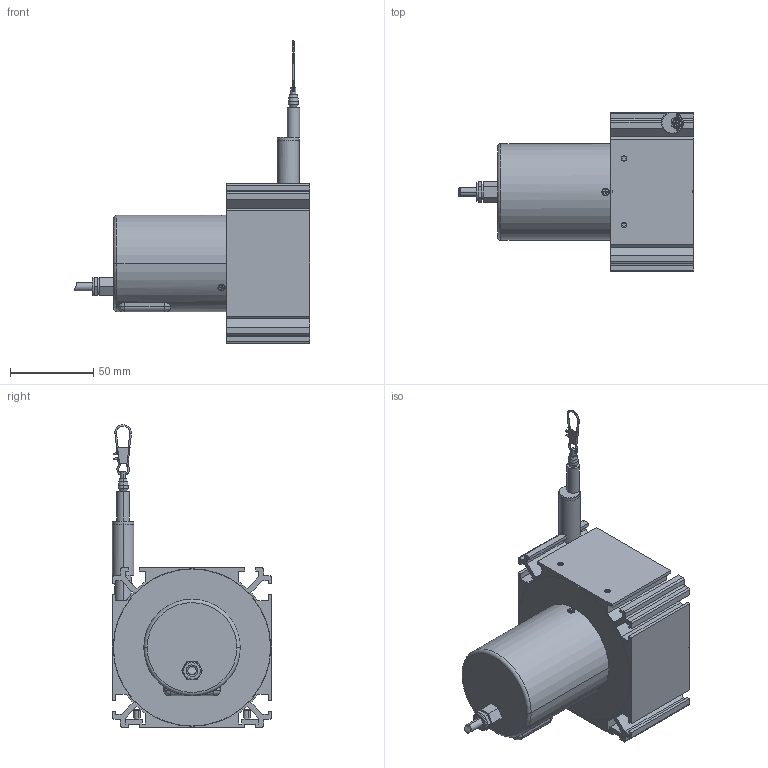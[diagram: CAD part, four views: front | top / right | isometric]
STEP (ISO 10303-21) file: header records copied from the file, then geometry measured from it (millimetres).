
FILE_DESCRIPTION((''),'2;1');
FILE_NAME('','2007-03-21T',(''),(''),'PRO/ENGINEER BY PARAMETRIC TECHNOLOGY CORPORATION, 2003250','PRO/ENGINEER BY PARAMETRIC TECHNOLOGY CORPORATION, 2003250','');
FILE_SCHEMA(('CONFIG_CONTROL_DESIGN'));
Length unit declared in the file: millimetre
Bounding box: 141.74 x 96 x 181.99 mm (x, y, z)
Volume: 222602.4 mm3; surface area: 111077 mm2
Topology: 1 solids, 8 shells, 616 faces, 1575 edges, 996 vertices
Faces by surface type: plane 284, cylinder 201, cone 74, torus 40, bspline 14, sphere 2, extrusion 1
Entity records: 19814 total; most frequent: CARTESIAN_POINT 4725, DIRECTION 3199, ORIENTED_EDGE 3102, EDGE_CURVE 1551, AXIS2_PLACEMENT_3D 1164, VERTEX_POINT 996, VECTOR 871, LINE 870
